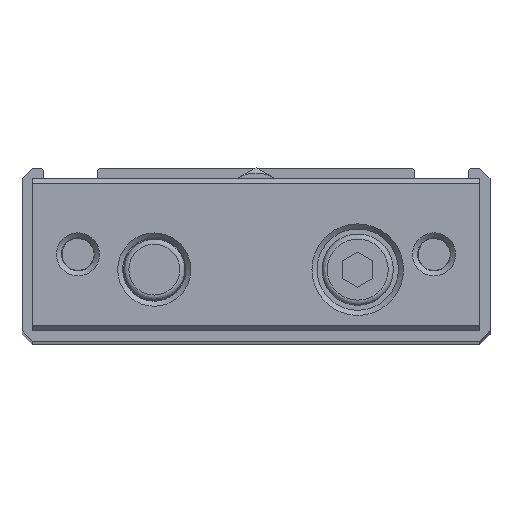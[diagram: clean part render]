
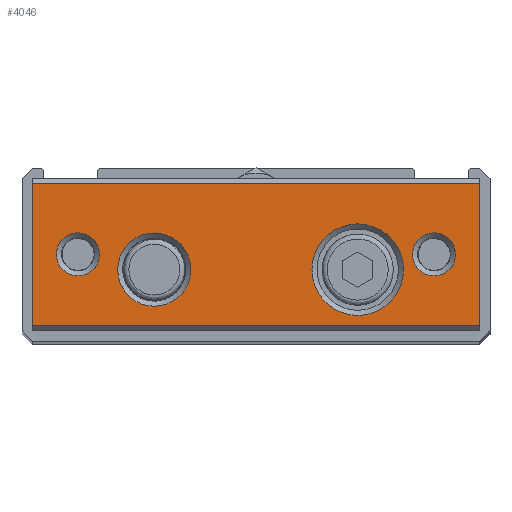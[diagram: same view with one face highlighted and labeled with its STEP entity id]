
A CAD part, top view. The second image highlights one B-rep face of the part: STEP entity #4046.
In plain terms, the highlighted planar face has unit normal (0, 0, 1).
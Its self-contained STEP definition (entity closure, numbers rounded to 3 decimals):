
#3142=CARTESIAN_POINT('',(22.0,7.0,199.0));
#3143=VERTEX_POINT('',#3142);
#3151=CARTESIAN_POINT('',(-22.0,7.0,199.0));
#3152=VERTEX_POINT('',#3151);
#3159=CARTESIAN_POINT('',(-22.0,7.0,199.0));
#3160=DIRECTION('',(1.0,0.0,0.0));
#3161=VECTOR('',#3160,44.0);
#3162=LINE('',#3159,#3161);
#3163=EDGE_CURVE('',#3152,#3143,#3162,.T.);
#3239=CARTESIAN_POINT('',(-22.0,-7.0,199.0));
#3240=VERTEX_POINT('',#3239);
#3247=CARTESIAN_POINT('',(-22.0,7.0,199.0));
#3248=DIRECTION('',(0.0,-1.0,0.0));
#3249=VECTOR('',#3248,14.0);
#3250=LINE('',#3247,#3249);
#3251=EDGE_CURVE('',#3152,#3240,#3250,.T.);
#3403=CARTESIAN_POINT('',(22.0,-7.0,199.0));
#3404=VERTEX_POINT('',#3403);
#3405=CARTESIAN_POINT('',(22.0,-7.0,199.0));
#3406=DIRECTION('',(0.0,1.0,0.0));
#3407=VECTOR('',#3406,14.0);
#3408=LINE('',#3405,#3407);
#3409=EDGE_CURVE('',#3404,#3143,#3408,.T.);
#3982=CARTESIAN_POINT('',(14.5,-1.5,199.0));
#3983=VERTEX_POINT('',#3982);
#3984=CARTESIAN_POINT('',(10.0,-1.5,199.0));
#3985=DIRECTION('',(0.0,0.0,1.0));
#3986=DIRECTION('',(-1.0,0.0,0.0));
#3987=AXIS2_PLACEMENT_3D('',#3984,#3985,#3986);
#3988=CIRCLE('',#3987,4.5);
#3989=EDGE_CURVE('',#3983,#3983,#3988,.T.);
#3994=CARTESIAN_POINT('',(0.0,-7.5,199.0));
#3995=DIRECTION('',(0.0,0.0,1.0));
#3996=DIRECTION('',(1.0,0.0,0.0));
#3997=AXIS2_PLACEMENT_3D('',#3994,#3995,#3996);
#3998=PLANE('',#3997);
#3999=ORIENTED_EDGE('',*,*,#3163,.F.);
#4000=ORIENTED_EDGE('',*,*,#3251,.T.);
#4001=CARTESIAN_POINT('',(22.0,-7.0,199.0));
#4002=DIRECTION('',(-1.0,0.0,0.0));
#4003=VECTOR('',#4002,44.0);
#4004=LINE('',#4001,#4003);
#4005=EDGE_CURVE('',#3404,#3240,#4004,.T.);
#4006=ORIENTED_EDGE('',*,*,#4005,.F.);
#4007=ORIENTED_EDGE('',*,*,#3409,.T.);
#4008=EDGE_LOOP('',(#3999,#4000,#4006,#4007));
#4009=FACE_OUTER_BOUND('',#4008,.T.);
#4010=CARTESIAN_POINT('',(-6.4,-1.5,199.0));
#4011=VERTEX_POINT('',#4010);
#4012=CARTESIAN_POINT('',(-10.0,-1.5,199.0));
#4013=DIRECTION('',(0.0,0.0,1.0));
#4014=DIRECTION('',(-1.0,0.0,0.0));
#4015=AXIS2_PLACEMENT_3D('',#4012,#4013,#4014);
#4016=CIRCLE('',#4015,3.6);
#4017=EDGE_CURVE('',#4011,#4011,#4016,.T.);
#4018=ORIENTED_EDGE('',*,*,#4017,.F.);
#4019=EDGE_LOOP('',(#4018));
#4020=FACE_BOUND('',#4019,.T.);
#4021=CARTESIAN_POINT('',(19.621,0.,199.0));
#4022=VERTEX_POINT('',#4021);
#4023=CARTESIAN_POINT('',(17.5,0.0,199.0));
#4024=DIRECTION('',(0.0,0.0,1.0));
#4025=DIRECTION('',(-1.0,0.0,0.0));
#4026=AXIS2_PLACEMENT_3D('',#4023,#4024,#4025);
#4027=CIRCLE('',#4026,2.121);
#4028=EDGE_CURVE('',#4022,#4022,#4027,.T.);
#4029=ORIENTED_EDGE('',*,*,#4028,.F.);
#4030=EDGE_LOOP('',(#4029));
#4031=FACE_BOUND('',#4030,.T.);
#4032=CARTESIAN_POINT('',(-15.379,0.,199.0));
#4033=VERTEX_POINT('',#4032);
#4034=CARTESIAN_POINT('',(-17.5,0.0,199.0));
#4035=DIRECTION('',(0.0,0.0,1.0));
#4036=DIRECTION('',(-1.0,0.0,0.0));
#4037=AXIS2_PLACEMENT_3D('',#4034,#4035,#4036);
#4038=CIRCLE('',#4037,2.121);
#4039=EDGE_CURVE('',#4033,#4033,#4038,.T.);
#4040=ORIENTED_EDGE('',*,*,#4039,.F.);
#4041=EDGE_LOOP('',(#4040));
#4042=FACE_BOUND('',#4041,.T.);
#4043=ORIENTED_EDGE('',*,*,#3989,.F.);
#4044=EDGE_LOOP('',(#4043));
#4045=FACE_BOUND('',#4044,.T.);
#4046=ADVANCED_FACE('',(#4009,#4020,#4031,#4042,#4045),#3998,.T.);
